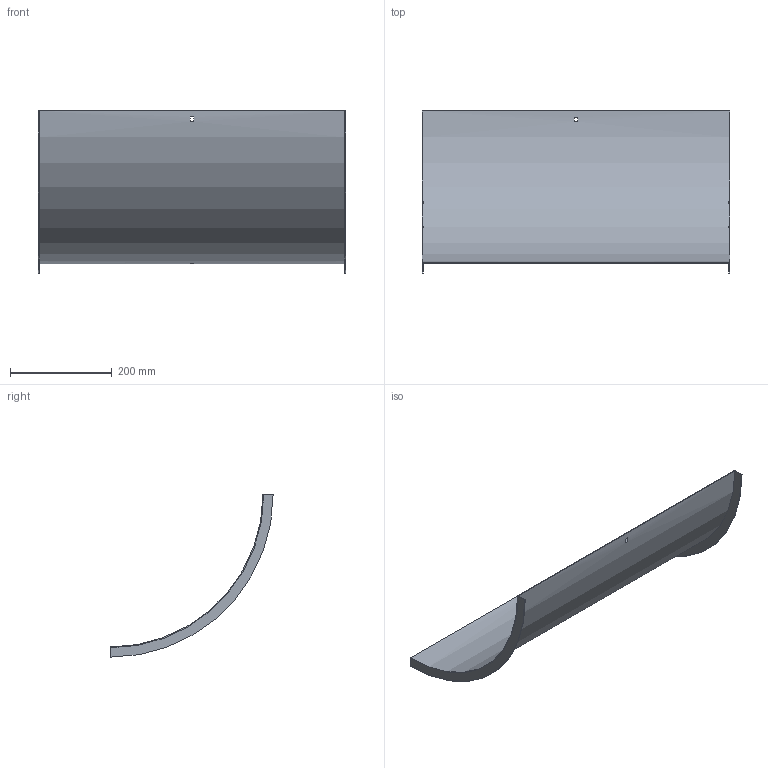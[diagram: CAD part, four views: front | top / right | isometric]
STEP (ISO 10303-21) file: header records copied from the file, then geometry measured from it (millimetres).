
FILE_DESCRIPTION (( 'STEP AP214' ), '1' );
FILE_NAME ('B2X30N3R600X.step', '2025-03-20T09:47:09', ( '' ), ( '' ), 'SwSTEP 2.0', 'SolidWorks 2023', '' );
FILE_SCHEMA (( 'AUTOMOTIVE_DESIGN' ));
Length unit declared in the file: millimetre
Products named in the file (1): B2X30N3R600X
Bounding box: 603 x 318.5 x 318.5 mm (x, y, z)
Volume: 451954.4 mm3; surface area: 606116.4 mm2
Topology: 1 solids, 1 shells, 18 faces, 48 edges, 32 vertices
Faces by surface type: plane 14, cylinder 4
Entity records: 599 total; most frequent: DIRECTION 102, CARTESIAN_POINT 99, ORIENTED_EDGE 96, EDGE_CURVE 48, AXIS2_PLACEMENT_3D 35, LINE 32, VECTOR 32, VERTEX_POINT 32
